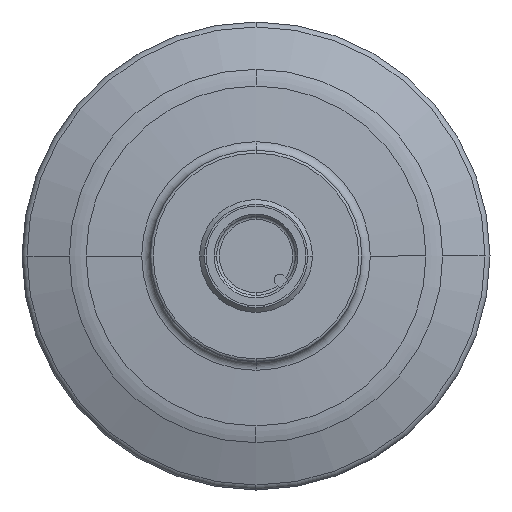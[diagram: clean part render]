
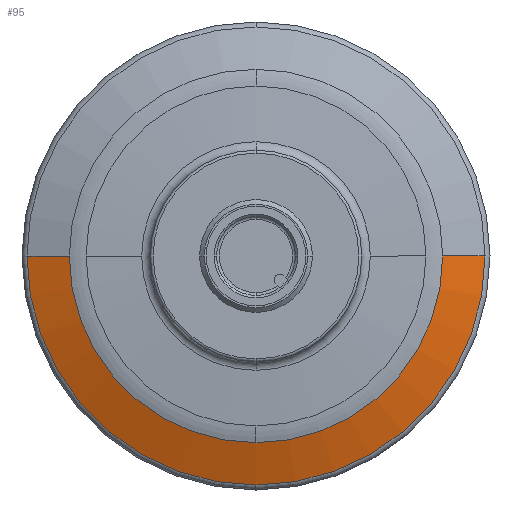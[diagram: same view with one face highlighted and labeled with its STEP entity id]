
A CAD part, left-side view. The second image highlights one B-rep face of the part: STEP entity #95.
In plain terms, the highlighted conical face has half-angle 70 degrees and reference radius 22.12 mm.
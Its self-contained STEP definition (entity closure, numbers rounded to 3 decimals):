
#95 = ADVANCED_FACE( '', ( #194 ), #195, .T. );
#194 = FACE_OUTER_BOUND( '', #358, .T. );
#195 = CONICAL_SURFACE( '', #359, 22.12, 1.222 );
#358 = EDGE_LOOP( '', ( #646, #647, #648, #649, #650, #651 ) );
#359 = AXIS2_PLACEMENT_3D( '', #652, #653, #654 );
#646 = ORIENTED_EDGE( '', *, *, #1206, .F. );
#647 = ORIENTED_EDGE( '', *, *, #1207, .T. );
#648 = ORIENTED_EDGE( '', *, *, #1208, .T. );
#649 = ORIENTED_EDGE( '', *, *, #1209, .F. );
#650 = ORIENTED_EDGE( '', *, *, #1210, .F. );
#651 = ORIENTED_EDGE( '', *, *, #1203, .F. );
#652 = CARTESIAN_POINT( '', ( 20.138, 0., 0. ) );
#653 = DIRECTION( '', ( 1., 0., 0. ) );
#654 = DIRECTION( '', ( 0., 1., 0. ) );
#1203 = EDGE_CURVE( '', #1473, #1475, #1476, .T. );
#1206 = EDGE_CURVE( '', #1479, #1473, #1480, .T. );
#1207 = EDGE_CURVE( '', #1479, #1481, #1482, .T. );
#1208 = EDGE_CURVE( '', #1481, #1483, #1484, .T. );
#1209 = EDGE_CURVE( '', #1485, #1483, #1486, .T. );
#1210 = EDGE_CURVE( '', #1475, #1485, #1487, .T. );
#1473 = VERTEX_POINT( '', #1833 );
#1475 = VERTEX_POINT( '', #1835 );
#1476 = CIRCLE( '', #1836, 19.866 );
#1479 = VERTEX_POINT( '', #1839 );
#1480 = LINE( '', #1840, #1841 );
#1481 = VERTEX_POINT( '', #1842 );
#1482 = CIRCLE( '', #1843, 24.374 );
#1483 = VERTEX_POINT( '', #1844 );
#1484 = CIRCLE( '', #1845, 24.374 );
#1485 = VERTEX_POINT( '', #1846 );
#1486 = LINE( '', #1847, #1848 );
#1487 = CIRCLE( '', #1849, 19.866 );
#1833 = CARTESIAN_POINT( '', ( 19.318, 19.866, 0. ) );
#1835 = CARTESIAN_POINT( '', ( 19.318, 0., -19.866 ) );
#1836 = AXIS2_PLACEMENT_3D( '', #2236, #2237, #2238 );
#1839 = CARTESIAN_POINT( '', ( 20.958, 24.374, 0. ) );
#1840 = CARTESIAN_POINT( '', ( 20.138, 22.12, 0. ) );
#1841 = VECTOR( '', #2245, 1. );
#1842 = CARTESIAN_POINT( '', ( 20.958, 0., -24.374 ) );
#1843 = AXIS2_PLACEMENT_3D( '', #2246, #2247, #2248 );
#1844 = CARTESIAN_POINT( '', ( 20.958, -24.374, 0. ) );
#1845 = AXIS2_PLACEMENT_3D( '', #2249, #2250, #2251 );
#1846 = CARTESIAN_POINT( '', ( 19.318, -19.866, 0. ) );
#1847 = CARTESIAN_POINT( '', ( 20.138, -22.12, 0. ) );
#1848 = VECTOR( '', #2252, 1. );
#1849 = AXIS2_PLACEMENT_3D( '', #2253, #2254, #2255 );
#2236 = CARTESIAN_POINT( '', ( 19.318, 0., 0. ) );
#2237 = DIRECTION( '', ( -1., 0., 0. ) );
#2238 = DIRECTION( '', ( 0., 1., 0. ) );
#2245 = DIRECTION( '', ( -0.342, -0.94, 0. ) );
#2246 = CARTESIAN_POINT( '', ( 20.958, 0., 0. ) );
#2247 = DIRECTION( '', ( -1., 0., 0. ) );
#2248 = DIRECTION( '', ( 0., 1., 0. ) );
#2249 = CARTESIAN_POINT( '', ( 20.958, 0., 0. ) );
#2250 = DIRECTION( '', ( -1., 0., 0. ) );
#2251 = DIRECTION( '', ( 0., 1., 0. ) );
#2252 = DIRECTION( '', ( 0.342, -0.94, 0. ) );
#2253 = CARTESIAN_POINT( '', ( 19.318, 0., 0. ) );
#2254 = DIRECTION( '', ( -1., 0., 0. ) );
#2255 = DIRECTION( '', ( 0., 1., 0. ) );
